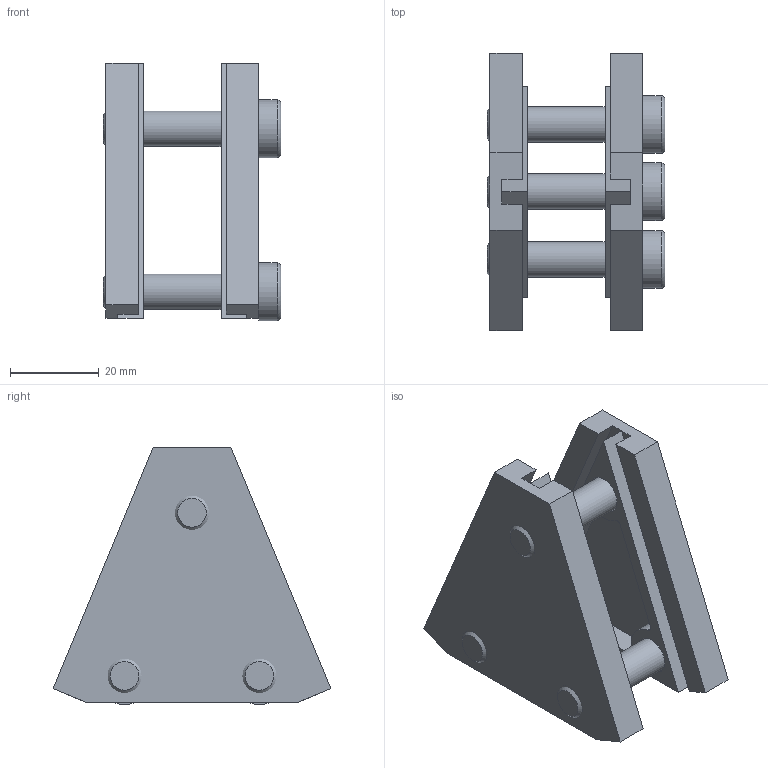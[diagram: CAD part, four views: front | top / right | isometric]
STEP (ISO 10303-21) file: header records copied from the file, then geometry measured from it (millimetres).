
FILE_DESCRIPTION(/* description */ ('ANGLE BRACKET 45° FOR SUPPORT BEAM 40x80 AND 80x80'),/* implementation_level */ '2;1');
FILE_NAME(/* name */ '\\carryline.intra\privat\users\mathias\Desktop\Tillfälliga filer\100-3025.stp',/* time_stamp */ '2018-11-20T10:49:32+01:00',/* author */ ('mikael'),/* organization */ (''),/* preprocessor_version */ 'ST-DEVELOPER v17',/* originating_system */ 'Autodesk Inventor 2018',/* authorisation */ '');
FILE_SCHEMA (('AUTOMOTIVE_DESIGN { 1 0 10303 214 3 1 1 }'));
Length unit declared in the file: millimetre
Products named in the file (4): 100-3025; 100-3025-01; 100-3025-03; DIN 7984 - M8 x 35
Assembly tree (5 placements, depth 2):
  100-3025
    100-3025-01
    100-3025-03
    DIN 7984 - M8 x 35  x3
Bounding box: 40 x 62.6 x 58 mm (x, y, z)
Volume: 31986.8 mm3; surface area: 20781.2 mm2
Topology: 5 solids, 5 shells, 109 faces, 295 edges, 201 vertices
Faces by surface type: plane 67, cylinder 30, torus 6, cone 6
Full cylindrical faces by diameter (mm): 6.647 x3, 8 x3, 8.5 x3, 13 x3
Entity records: 2685 total; most frequent: CARTESIAN_POINT 457, DIRECTION 452, ORIENTED_EDGE 424, EDGE_CURVE 212, AXIS2_PLACEMENT_3D 159, VERTEX_POINT 143, LINE 134, VECTOR 134
